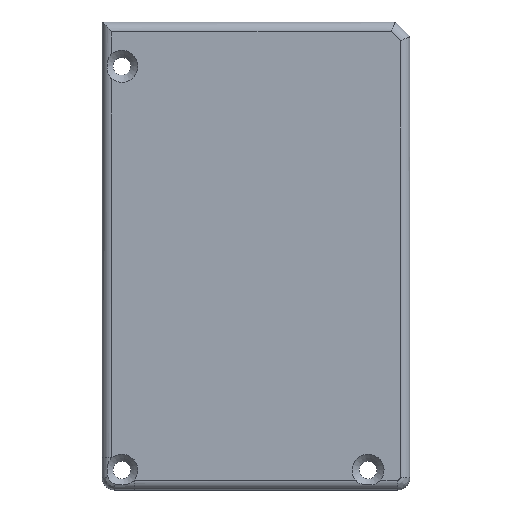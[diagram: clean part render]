
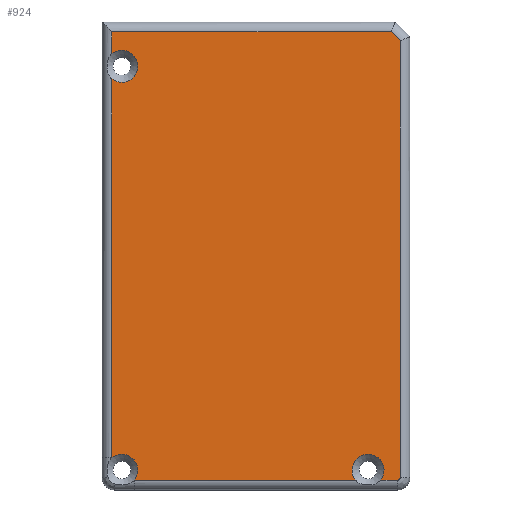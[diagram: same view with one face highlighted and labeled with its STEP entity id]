
A CAD part, top view. The second image highlights one B-rep face of the part: STEP entity #924.
In plain terms, the highlighted planar face has unit normal (0, 0, 1).
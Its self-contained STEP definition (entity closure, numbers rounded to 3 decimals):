
#79=CIRCLE('',#973,0.5);
#84=CIRCLE('',#986,3.25);
#86=CIRCLE('',#989,3.25);
#88=CIRCLE('',#992,3.25);
#90=CIRCLE('',#994,3.25);
#151=FACE_OUTER_BOUND('',#204,.T.);
#204=EDGE_LOOP('',(#844,#845,#846,#847,#848,#849,#850,#851,#852,#853,#854,
#855));
#232=LINE('',#1417,#312);
#234=LINE('',#1424,#314);
#236=LINE('',#1429,#316);
#238=LINE('',#1435,#318);
#239=LINE('',#1456,#319);
#241=LINE('',#1463,#321);
#242=LINE('',#1479,#322);
#312=VECTOR('',#1111,10.);
#314=VECTOR('',#1117,10.);
#316=VECTOR('',#1121,10.);
#318=VECTOR('',#1127,10.);
#319=VECTOR('',#1132,10.);
#321=VECTOR('',#1138,10.);
#322=VECTOR('',#1147,10.);
#404=VERTEX_POINT('',#1397);
#406=VERTEX_POINT('',#1407);
#407=VERTEX_POINT('',#1416);
#410=VERTEX_POINT('',#1422);
#412=VERTEX_POINT('',#1428);
#414=VERTEX_POINT('',#1434);
#415=VERTEX_POINT('',#1438);
#416=VERTEX_POINT('',#1439);
#417=VERTEX_POINT('',#1455);
#420=VERTEX_POINT('',#1461);
#422=VERTEX_POINT('',#1474);
#430=VERTEX_POINT('',#1557);
#497=EDGE_CURVE('',#406,#407,#232,.T.);
#501=EDGE_CURVE('',#410,#404,#234,.T.);
#503=EDGE_CURVE('',#407,#412,#236,.T.);
#506=EDGE_CURVE('',#412,#414,#238,.T.);
#509=EDGE_CURVE('',#416,#417,#239,.T.);
#513=EDGE_CURVE('',#420,#415,#241,.T.);
#515=EDGE_CURVE('',#422,#420,#79,.T.);
#517=EDGE_CURVE('',#414,#422,#242,.T.);
#533=EDGE_CURVE('',#406,#404,#84,.T.);
#536=EDGE_CURVE('',#410,#417,#86,.T.);
#539=EDGE_CURVE('',#430,#415,#88,.T.);
#542=EDGE_CURVE('',#416,#430,#90,.T.);
#844=ORIENTED_EDGE('',*,*,#497,.F.);
#845=ORIENTED_EDGE('',*,*,#533,.T.);
#846=ORIENTED_EDGE('',*,*,#501,.F.);
#847=ORIENTED_EDGE('',*,*,#536,.T.);
#848=ORIENTED_EDGE('',*,*,#509,.F.);
#849=ORIENTED_EDGE('',*,*,#542,.T.);
#850=ORIENTED_EDGE('',*,*,#539,.T.);
#851=ORIENTED_EDGE('',*,*,#513,.F.);
#852=ORIENTED_EDGE('',*,*,#515,.F.);
#853=ORIENTED_EDGE('',*,*,#517,.F.);
#854=ORIENTED_EDGE('',*,*,#506,.F.);
#855=ORIENTED_EDGE('',*,*,#503,.F.);
#875=PLANE('',#1033);
#924=ADVANCED_FACE('',(#151),#875,.T.);
#973=AXIS2_PLACEMENT_3D('',#1476,#1141,#1142);
#986=AXIS2_PLACEMENT_3D('',#1547,#1176,#1177);
#989=AXIS2_PLACEMENT_3D('',#1552,#1183,#1184);
#992=AXIS2_PLACEMENT_3D('',#1558,#1190,#1191);
#994=AXIS2_PLACEMENT_3D('',#1562,#1195,#1196);
#1033=AXIS2_PLACEMENT_3D('',#1651,#1304,#1305);
#1111=DIRECTION('',(0.,1.,0.));
#1117=DIRECTION('',(0.,1.,0.));
#1121=DIRECTION('',(1.,0.,0.));
#1127=DIRECTION('',(0.707,-0.707,0.));
#1132=DIRECTION('',(-1.,0.,0.));
#1138=DIRECTION('',(-1.,0.,0.));
#1141=DIRECTION('center_axis',(0.,0.,-1.));
#1142=DIRECTION('ref_axis',(0.707,-0.707,0.));
#1147=DIRECTION('',(0.,-1.,0.));
#1176=DIRECTION('center_axis',(0.,0.,-1.));
#1177=DIRECTION('ref_axis',(1.,0.,0.));
#1183=DIRECTION('center_axis',(0.,0.,-1.));
#1184=DIRECTION('ref_axis',(1.,0.,0.));
#1190=DIRECTION('center_axis',(0.,0.,-1.));
#1191=DIRECTION('ref_axis',(1.,0.,0.));
#1195=DIRECTION('center_axis',(0.,0.,-1.));
#1196=DIRECTION('ref_axis',(1.,0.,0.));
#1304=DIRECTION('center_axis',(0.,0.,1.));
#1305=DIRECTION('ref_axis',(1.,0.,0.));
#1397=CARTESIAN_POINT('',(-29.25,35.938,5.));
#1407=CARTESIAN_POINT('',(-29.25,41.062,5.));
#1416=CARTESIAN_POINT('',(-29.25,45.5,5.));
#1417=CARTESIAN_POINT('',(-29.25,23.75,5.));
#1422=CARTESIAN_POINT('',(-29.25,-40.938,5.));
#1424=CARTESIAN_POINT('',(-29.25,23.75,5.));
#1428=CARTESIAN_POINT('',(27.422,45.5,5.));
#1429=CARTESIAN_POINT('',(15.625,45.5,5.));
#1434=CARTESIAN_POINT('',(29.25,43.672,5.));
#1435=CARTESIAN_POINT('',(32.398,40.523,5.));
#1438=CARTESIAN_POINT('',(25.312,-45.5,5.));
#1439=CARTESIAN_POINT('',(20.188,-45.5,5.));
#1455=CARTESIAN_POINT('',(-24.688,-45.5,5.));
#1456=CARTESIAN_POINT('',(-15.625,-45.5,5.));
#1461=CARTESIAN_POINT('',(28.75,-45.5,5.));
#1463=CARTESIAN_POINT('',(-15.625,-45.5,5.));
#1474=CARTESIAN_POINT('',(29.25,-45.,5.));
#1476=CARTESIAN_POINT('Origin',(28.75,-45.,5.));
#1479=CARTESIAN_POINT('',(29.25,-23.75,5.));
#1547=CARTESIAN_POINT('Origin',(-27.25,38.5,5.));
#1552=CARTESIAN_POINT('Origin',(-27.25,-43.5,5.));
#1557=CARTESIAN_POINT('',(19.5,-43.5,5.));
#1558=CARTESIAN_POINT('Origin',(22.75,-43.5,5.));
#1562=CARTESIAN_POINT('Origin',(22.75,-43.5,5.));
#1651=CARTESIAN_POINT('Origin',(0.,0.,5.));
